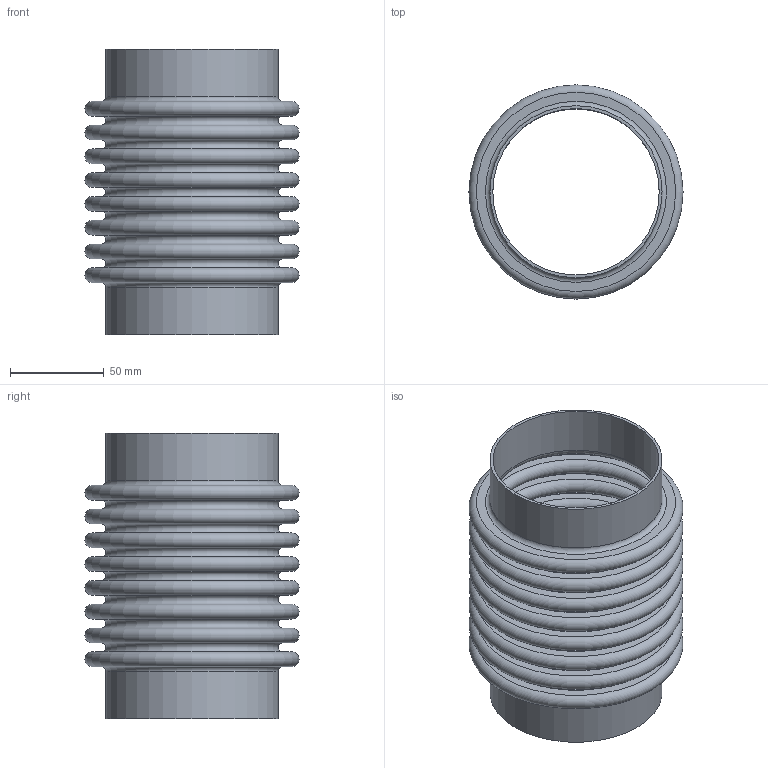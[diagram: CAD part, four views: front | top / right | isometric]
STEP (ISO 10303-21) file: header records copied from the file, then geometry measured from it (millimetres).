
FILE_DESCRIPTION(/* description */ ('STOCK BELLOWS: U.S-3-8-300S, 3.500 I.D., 4.500 O.D., 2 PLY, 22 GA (0.030 THICK), 8 CONS., 0.500 PITCH, 1.000 TANGENT. '),/* implementation_level */ '2;1');
FILE_NAME(/* name */ 'STOCK BELLOW - US-3-8-300S.stp',/* time_stamp */ '2026-07-21T13:25:17-05:00',/* author */ ('KennethB'),/* organization */ (''),/* preprocessor_version */ 'ST-DEVELOPER v20.1',/* originating_system */ 'Autodesk Inventor 2026',/* authorisation */ '');
FILE_SCHEMA (('AUTOMOTIVE_DESIGN { 1 0 10303 214 3 1 1 }'));
Length unit declared in the file: inch
Products named in the file (1): STOCK BELLOW - US-3-8-300S
Bounding box: 114.3 x 114.3 x 152.4 mm (x, y, z)
Volume: 137186 mm3; surface area: 182631.7 mm2
Topology: 3 solids, 3 shells, 76 faces, 114 edges, 77 vertices
Faces by surface type: plane 38, torus 34, cylinder 4
Full cylindrical faces by diameter (mm): 88.9 x2, 91.948 x2
Entity records: 1814 total; most frequent: DIRECTION 378, CARTESIAN_POINT 268, ORIENTED_EDGE 228, AXIS2_PLACEMENT_3D 187, EDGE_LOOP 114, EDGE_CURVE 114, CIRCLE 110, FACE_OUTER_BOUND 76
